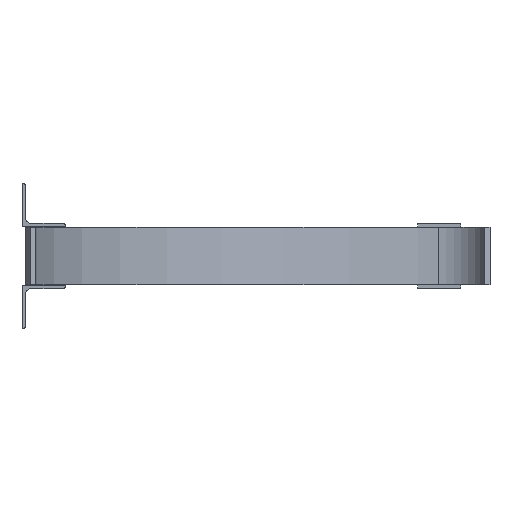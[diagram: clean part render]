
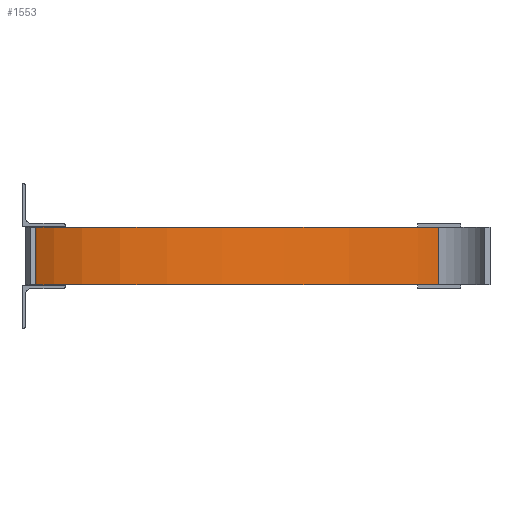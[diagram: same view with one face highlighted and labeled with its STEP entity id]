
A CAD part, left-side view. The second image highlights one B-rep face of the part: STEP entity #1553.
In plain terms, the highlighted cylindrical face has radius 700 mm (diameter 1400 mm), a partial arc.
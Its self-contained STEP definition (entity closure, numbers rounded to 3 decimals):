
#64=CYLINDRICAL_SURFACE('',#1687,700.);
#134=FACE_OUTER_BOUND('',#226,.T.);
#226=EDGE_LOOP('',(#1196,#1197,#1198,#1199,#1200,#1201));
#359=LINE('',#2422,#485);
#370=LINE('',#2446,#496);
#485=VECTOR('',#1978,100.);
#496=VECTOR('',#2007,100.);
#543=CIRCLE('',#1593,700.);
#571=CIRCLE('',#1650,700.);
#577=CIRCLE('',#1664,700.);
#585=CIRCLE('',#1685,700.);
#619=VERTEX_POINT('',#2208);
#620=VERTEX_POINT('',#2210);
#668=VERTEX_POINT('',#2365);
#669=VERTEX_POINT('',#2366);
#681=VERTEX_POINT('',#2405);
#687=VERTEX_POINT('',#2420);
#751=EDGE_CURVE('',#619,#620,#543,.T.);
#829=EDGE_CURVE('',#668,#669,#571,.T.);
#849=EDGE_CURVE('',#681,#668,#577,.T.);
#856=EDGE_CURVE('',#687,#681,#359,.T.);
#870=EDGE_CURVE('',#619,#669,#370,.T.);
#877=EDGE_CURVE('',#620,#687,#585,.T.);
#1196=ORIENTED_EDGE('',*,*,#856,.F.);
#1197=ORIENTED_EDGE('',*,*,#877,.F.);
#1198=ORIENTED_EDGE('',*,*,#751,.F.);
#1199=ORIENTED_EDGE('',*,*,#870,.T.);
#1200=ORIENTED_EDGE('',*,*,#829,.F.);
#1201=ORIENTED_EDGE('',*,*,#849,.F.);
#1553=ADVANCED_FACE('',(#134),#64,.F.);
#1593=AXIS2_PLACEMENT_3D('',#2211,#1759,#1760);
#1650=AXIS2_PLACEMENT_3D('',#2367,#1923,#1924);
#1664=AXIS2_PLACEMENT_3D('',#2407,#1965,#1966);
#1685=AXIS2_PLACEMENT_3D('',#2460,#2027,#2028);
#1687=AXIS2_PLACEMENT_3D('',#2462,#2031,#2032);
#1759=DIRECTION('center_axis',(0.,0.,
1.));
#1760=DIRECTION('ref_axis',(1.,-0.011,0.));
#1923=DIRECTION('center_axis',(0.,0.,
-1.));
#1924=DIRECTION('ref_axis',(-0.007,1.,0.));
#1965=DIRECTION('center_axis',(0.,0.,
-1.));
#1966=DIRECTION('ref_axis',(-0.007,1.,0.));
#1978=DIRECTION('',(0.,0.,1.));
#2007=DIRECTION('',(0.,0.,1.));
#2027=DIRECTION('center_axis',(0.,0.,
1.));
#2028=DIRECTION('ref_axis',(1.,-0.011,0.));
#2031=DIRECTION('center_axis',(0.,0.,
1.));
#2032=DIRECTION('ref_axis',(1.,-0.011,0.));
#2208=CARTESIAN_POINT('',(769.961,-723.394,1.));
#2210=CARTESIAN_POINT('',(769.42,-687.5,1.));
#2211=CARTESIAN_POINT('Origin',(70.,-715.983,1.));
#2365=CARTESIAN_POINT('',(769.42,-687.5,101.));
#2366=CARTESIAN_POINT('',(769.961,-723.394,101.));
#2367=CARTESIAN_POINT('Origin',(70.,-715.983,101.));
#2405=CARTESIAN_POINT('',(65.207,-16.,101.));
#2407=CARTESIAN_POINT('Origin',(70.,-715.983,101.));
#2420=CARTESIAN_POINT('',(65.207,-16.,1.));
#2422=CARTESIAN_POINT('',(65.207,-16.,51.));
#2446=CARTESIAN_POINT('',(769.961,-723.394,51.));
#2460=CARTESIAN_POINT('Origin',(70.,-715.983,1.));
#2462=CARTESIAN_POINT('Origin',(70.,-715.983,51.));
